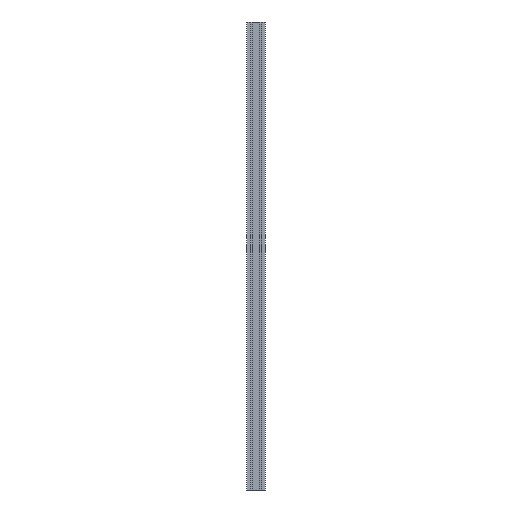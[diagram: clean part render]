
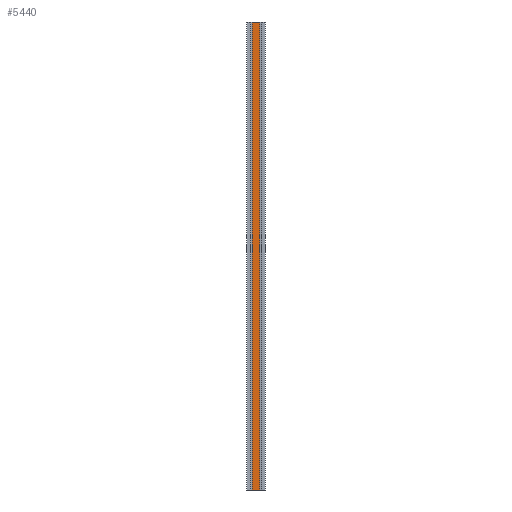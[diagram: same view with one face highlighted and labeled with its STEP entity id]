
A CAD part, front view. The second image highlights one B-rep face of the part: STEP entity #5440.
In plain terms, the highlighted planar face has unit normal (0, -1, 0).
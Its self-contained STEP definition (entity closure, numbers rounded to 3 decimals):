
#5382=CARTESIAN_POINT('',(277.55,160.,1000.0));
#5383=VERTEX_POINT('',#5382);
#5391=CARTESIAN_POINT('',(277.55,160.,0.0));
#5392=VERTEX_POINT('',#5391);
#5393=CARTESIAN_POINT('',(277.55,160.,0.0));
#5394=DIRECTION('',(0.0,0.0,1.0));
#5395=VECTOR('',#5394,1000.0);
#5396=LINE('',#5393,#5395);
#5397=EDGE_CURVE('',#5392,#5383,#5396,.T.);
#5410=CARTESIAN_POINT('',(277.55,160.,0.0));
#5411=DIRECTION('',(0.0,-1.0,0.0));
#5412=DIRECTION('',(0.0,0.0,-1.0));
#5413=AXIS2_PLACEMENT_3D('',#5410,#5411,#5412);
#5414=PLANE('',#5413);
#5415=CARTESIAN_POINT('',(262.45,160.,1000.0));
#5416=VERTEX_POINT('',#5415);
#5417=CARTESIAN_POINT('',(277.55,160.,1000.0));
#5418=DIRECTION('',(-1.0,0.0,0.0));
#5419=VECTOR('',#5418,15.1);
#5420=LINE('',#5417,#5419);
#5421=EDGE_CURVE('',#5383,#5416,#5420,.T.);
#5422=ORIENTED_EDGE('',*,*,#5421,.T.);
#5423=CARTESIAN_POINT('',(262.45,160.,0.0));
#5424=VERTEX_POINT('',#5423);
#5425=CARTESIAN_POINT('',(262.45,160.,0.0));
#5426=DIRECTION('',(0.0,0.0,1.0));
#5427=VECTOR('',#5426,1000.0);
#5428=LINE('',#5425,#5427);
#5429=EDGE_CURVE('',#5424,#5416,#5428,.T.);
#5430=ORIENTED_EDGE('',*,*,#5429,.F.);
#5431=CARTESIAN_POINT('',(262.45,160.,0.0));
#5432=DIRECTION('',(1.0,0.0,0.0));
#5433=VECTOR('',#5432,15.1);
#5434=LINE('',#5431,#5433);
#5435=EDGE_CURVE('',#5424,#5392,#5434,.T.);
#5436=ORIENTED_EDGE('',*,*,#5435,.T.);
#5437=ORIENTED_EDGE('',*,*,#5397,.T.);
#5438=EDGE_LOOP('',(#5422,#5430,#5436,#5437));
#5439=FACE_OUTER_BOUND('',#5438,.T.);
#5440=ADVANCED_FACE('',(#5439),#5414,.T.);
